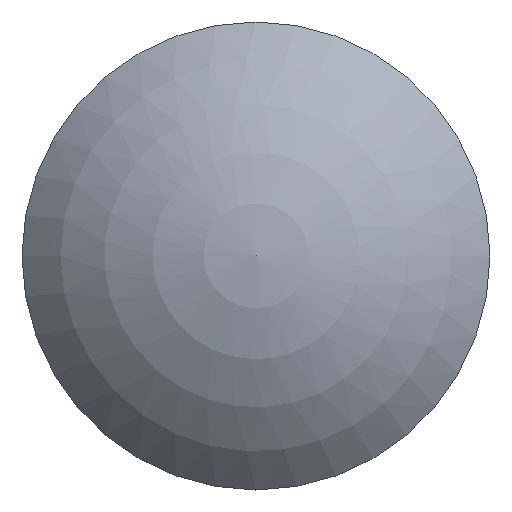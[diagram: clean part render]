
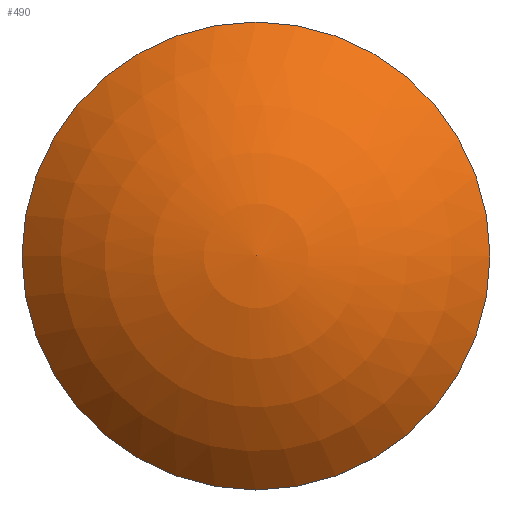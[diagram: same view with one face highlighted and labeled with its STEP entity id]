
A CAD part, top view. The second image highlights one B-rep face of the part: STEP entity #490.
In plain terms, the highlighted spherical face has radius 25.801 mm.
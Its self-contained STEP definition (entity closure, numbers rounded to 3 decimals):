
#423 = CYLINDRICAL_SURFACE('',#424,19.05);
#424 = AXIS2_PLACEMENT_3D('',#425,#426,#427);
#425 = CARTESIAN_POINT('',(0.,0.,0.8));
#426 = DIRECTION('',(0.,0.,1.));
#427 = DIRECTION('',(1.,0.,-0.));
#441 = VERTEX_POINT('',#442);
#442 = CARTESIAN_POINT('',(19.05,0.,1.6));
#463 = EDGE_CURVE('',#441,#441,#464,.T.);
#464 = SURFACE_CURVE('',#465,(#470,#477),.PCURVE_S1.);
#465 = CIRCLE('',#466,19.05);
#466 = AXIS2_PLACEMENT_3D('',#467,#468,#469);
#467 = CARTESIAN_POINT('',(0.,0.,1.6));
#468 = DIRECTION('',(0.,0.,1.));
#469 = DIRECTION('',(1.,0.,-0.));
#470 = PCURVE('',#423,#471);
#471 = DEFINITIONAL_REPRESENTATION('',(#472),#476);
#472 = LINE('',#473,#474);
#473 = CARTESIAN_POINT('',(0.,0.8));
#474 = VECTOR('',#475,1.);
#475 = DIRECTION('',(1.,0.));
#476 = ( GEOMETRIC_REPRESENTATION_CONTEXT(2) 
PARAMETRIC_REPRESENTATION_CONTEXT() REPRESENTATION_CONTEXT('2D SPACE',''
  ) );
#477 = PCURVE('',#478,#483);
#478 = SPHERICAL_SURFACE('',#479,25.801);
#479 = AXIS2_PLACEMENT_3D('',#480,#481,#482);
#480 = CARTESIAN_POINT('',(0.,0.,-15.801));
#481 = DIRECTION('',(0.,0.,1.));
#482 = DIRECTION('',(1.,0.,-0.));
#483 = DEFINITIONAL_REPRESENTATION('',(#484),#488);
#484 = LINE('',#485,#486);
#485 = CARTESIAN_POINT('',(0.,0.74));
#486 = VECTOR('',#487,1.);
#487 = DIRECTION('',(1.,0.));
#488 = ( GEOMETRIC_REPRESENTATION_CONTEXT(2) 
PARAMETRIC_REPRESENTATION_CONTEXT() REPRESENTATION_CONTEXT('2D SPACE',''
  ) );
#490 = ADVANCED_FACE('',(#491),#478,.T.);
#491 = FACE_BOUND('',#492,.T.);
#492 = EDGE_LOOP('',(#493,#494,#518));
#493 = ORIENTED_EDGE('',*,*,#463,.T.);
#494 = ORIENTED_EDGE('',*,*,#495,.T.);
#495 = EDGE_CURVE('',#441,#496,#498,.T.);
#496 = VERTEX_POINT('',#497);
#497 = CARTESIAN_POINT('',(0.,0.,10.));
#498 = SEAM_CURVE('',#499,(#504,#511),.PCURVE_S1.);
#499 = CIRCLE('',#500,25.801);
#500 = AXIS2_PLACEMENT_3D('',#501,#502,#503);
#501 = CARTESIAN_POINT('',(0.,0.,-15.801));
#502 = DIRECTION('',(0.,-1.,0.));
#503 = DIRECTION('',(0.738,0.,0.674));
#504 = PCURVE('',#478,#505);
#505 = DEFINITIONAL_REPRESENTATION('',(#506),#510);
#506 = LINE('',#507,#508);
#507 = CARTESIAN_POINT('',(0.,0.74));
#508 = VECTOR('',#509,1.);
#509 = DIRECTION('',(0.,1.));
#510 = ( GEOMETRIC_REPRESENTATION_CONTEXT(2) 
PARAMETRIC_REPRESENTATION_CONTEXT() REPRESENTATION_CONTEXT('2D SPACE',''
  ) );
#511 = PCURVE('',#478,#512);
#512 = DEFINITIONAL_REPRESENTATION('',(#513),#517);
#513 = LINE('',#514,#515);
#514 = CARTESIAN_POINT('',(6.283,0.74));
#515 = VECTOR('',#516,1.);
#516 = DIRECTION('',(0.,1.));
#517 = ( GEOMETRIC_REPRESENTATION_CONTEXT(2) 
PARAMETRIC_REPRESENTATION_CONTEXT() REPRESENTATION_CONTEXT('2D SPACE',''
  ) );
#518 = ORIENTED_EDGE('',*,*,#495,.F.);
